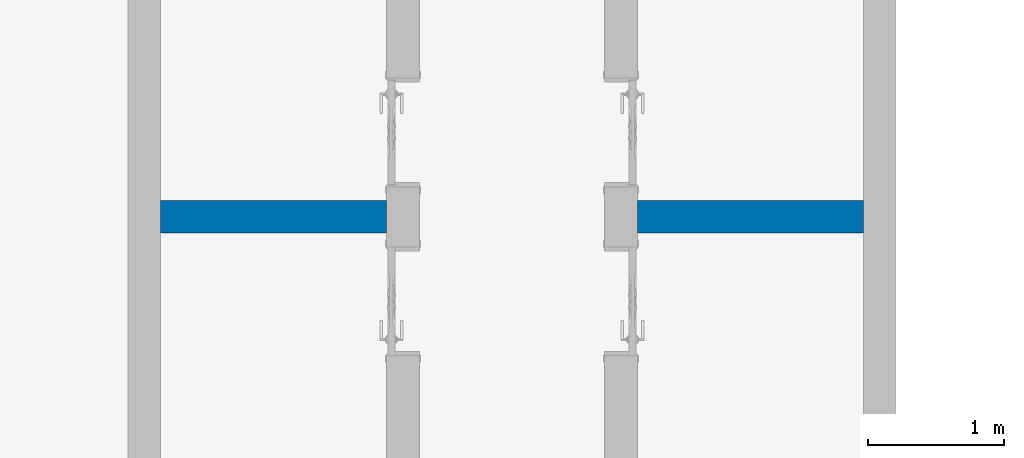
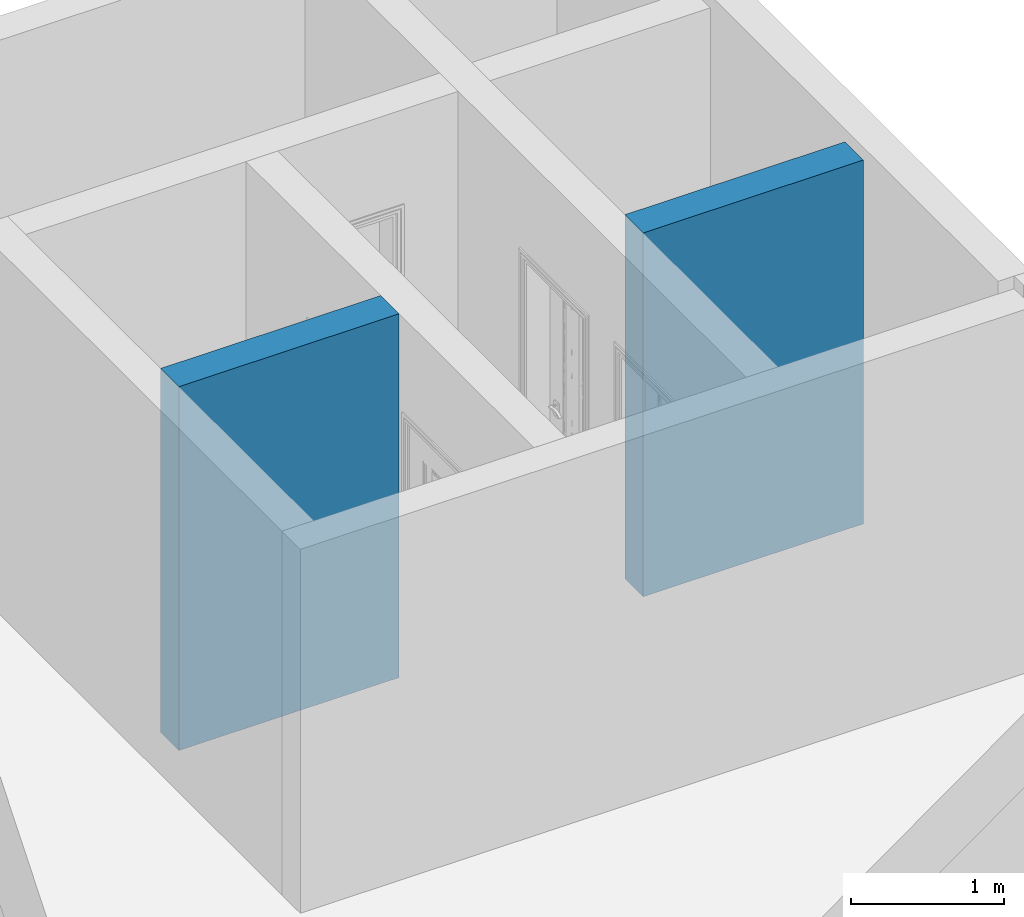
# One storey, part 8 of 16: 2 walls.
"""IFC2X3 building model written with IfcOpenShell, lengths in millimetres."""

from ifc_helpers import new_model, entity, si_unit, converted_unit, derived_unit, direction, frame, frame_2d, origin, place, context, subcontext, project, spatial, polyline, rectangle, extrude, clip, bounded_halfspace, material, layer, layer_set, layer_usage, type_object, element, save


model = new_model("IFC2X3")

# Units and contexts
model_context = context("Model", 3, precision=0.01, world=origin(), true_north=direction((6.12303176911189e-17, 1.0)))
body_context = subcontext(model_context, "Body", "Model", "MODEL_VIEW")
ifc_project = project(units=[si_unit("LENGTHUNIT", "METRE", prefix="MILLI"), si_unit("AREAUNIT", "SQUARE_METRE"), si_unit("VOLUMEUNIT", "CUBIC_METRE"), converted_unit("PLANEANGLEUNIT", "DEGREE", entity("IfcRatioMeasure", 0.0174532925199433), si_unit("PLANEANGLEUNIT", "RADIAN"), dimensions=[0, 0, 0, 0, 0, 0, 0]), si_unit("MASSUNIT", "GRAM", prefix="KILO"), derived_unit("MASSDENSITYUNIT", [(si_unit("MASSUNIT", "GRAM", prefix="KILO"), 1), (si_unit("LENGTHUNIT", "METRE"), -3)]), si_unit("TIMEUNIT", "SECOND"), si_unit("FREQUENCYUNIT", "HERTZ"), si_unit("THERMODYNAMICTEMPERATUREUNIT", "DEGREE_CELSIUS"), derived_unit("THERMALTRANSMITTANCEUNIT", [(si_unit("MASSUNIT", "GRAM", prefix="KILO"), 1), (si_unit("THERMODYNAMICTEMPERATUREUNIT", "KELVIN"), -1), (si_unit("TIMEUNIT", "SECOND"), -3)]), derived_unit("VOLUMETRICFLOWRATEUNIT", [(si_unit("LENGTHUNIT", "METRE"), 3), (si_unit("TIMEUNIT", "SECOND"), -1)]), si_unit("ELECTRICCURRENTUNIT", "AMPERE"), si_unit("ELECTRICVOLTAGEUNIT", "VOLT"), si_unit("POWERUNIT", "WATT"), si_unit("FORCEUNIT", "NEWTON", prefix="KILO"), si_unit("ILLUMINANCEUNIT", "LUX"), si_unit("LUMINOUSFLUXUNIT", "LUMEN"), si_unit("LUMINOUSINTENSITYUNIT", "CANDELA"), derived_unit("USERDEFINED", [(si_unit("MASSUNIT", "GRAM", prefix="KILO"), -1), (si_unit("LENGTHUNIT", "METRE"), -2), (si_unit("TIMEUNIT", "SECOND"), 3), (si_unit("LUMINOUSFLUXUNIT", "LUMEN"), 1)]), derived_unit("LINEARVELOCITYUNIT", [(si_unit("LENGTHUNIT", "METRE"), 1), (si_unit("TIMEUNIT", "SECOND"), -1)]), si_unit("PRESSUREUNIT", "PASCAL"), derived_unit("USERDEFINED", [(si_unit("LENGTHUNIT", "METRE"), -2), (si_unit("MASSUNIT", "GRAM", prefix="KILO"), 1), (si_unit("TIMEUNIT", "SECOND"), -2)])], contexts=[model_context])

# Site, building, storey
site_placement = place(None, origin())
site = spatial("IfcSite", under=ifc_project, at=site_placement, Name="表面", CompositionType="ELEMENT")
building_placement = place(site_placement, origin())
building = spatial("IfcBuilding", under=site, at=building_placement, CompositionType="ELEMENT")
storey_placement = place(building_placement, frame((0.0, 0.0, 3000.0)))
storey = spatial("IfcBuildingStorey", under=building, at=storey_placement, Name="2F", CompositionType="ELEMENT", Elevation=3000.00000000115)

# Walls
ifc_material_1 = material(Name="白色涂料")
ifc_layer_1 = layer(ifc_material_1, 10.0)
ifc_material_2 = material(Name="默认墙")
ifc_layer_2 = layer(ifc_material_2, 220.0)
ifc_layer_3 = layer(ifc_material_1, 10.0)
ifc_layer_set = layer_set([ifc_layer_1, ifc_layer_2, ifc_layer_3], Name="基本墙:粉刷墙240")
ifc_layer_usage_1 = layer_usage(ifc_layer_set, "AXIS2", "NEGATIVE", 120.0)
wall_type = type_object("IfcWallType", Name="基本墙:粉刷墙240", PredefinedType="STANDARD", material=ifc_layer_set)
wall_1_placement = place(storey_placement, frame((-8410.24991264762, -316.868426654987, 0.0)))
element("IfcWallStandardCase", 1, at=wall_1_placement, inside=storey, type_object=wall_type, material=ifc_layer_usage_1, Name="基本墙:粉刷墙240", ObjectType="基本墙:粉刷墙240", context=body_context, shape_type="Clipping", body=[
    clip(extrude(rectangle(XDim=1660.0, YDim=240.0, at=frame_2d((829.999999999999, 1.4210854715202e-14), x_axis=(-1.0, 0.0))), origin(), (0.0, 0.0, 1.0), 2900.0), bounded_halfspace(frame((0.0, -120.0, 2900.0), z_axis=(0.0, 0.0, -1.0), x_axis=(0.0, -1.0, 0.0)), True, frame((0.0, -120.0, 2900.0)), polyline([(0.0, 0.0), (1660.0, 0.0), (1660.0, 240.0), (0.0, 240.0), (0.0, 0.0)]))),
])
ifc_layer_usage_2 = layer_usage(ifc_layer_set, "AXIS2", "NEGATIVE", 120.0)
wall_2_placement = place(storey_placement, frame((-11910.2499126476, -316.868426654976, 0.0)))
element("IfcWallStandardCase", 2, at=wall_2_placement, inside=storey, type_object=wall_type, material=ifc_layer_usage_2, Name="基本墙:粉刷墙240", ObjectType="基本墙:粉刷墙240", context=body_context, shape_type="Clipping", body=[
    clip(extrude(rectangle(XDim=1660.0, YDim=240.0, at=frame_2d((830.000000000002, 1.4210854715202e-14), x_axis=(-1.0, 0.0))), origin(), (0.0, 0.0, 1.0), 2900.0), bounded_halfspace(frame((0.0, -120.0, 2900.0), z_axis=(0.0, 0.0, -1.0), x_axis=(0.0, -1.0, 0.0)), True, frame((0.0, -120.0, 2900.0)), polyline([(0.0, 0.0), (1660.0, 0.0), (1660.0, 240.0), (0.0, 240.0), (0.0, 0.0)]))),
])

save(model, "model.ifc")
